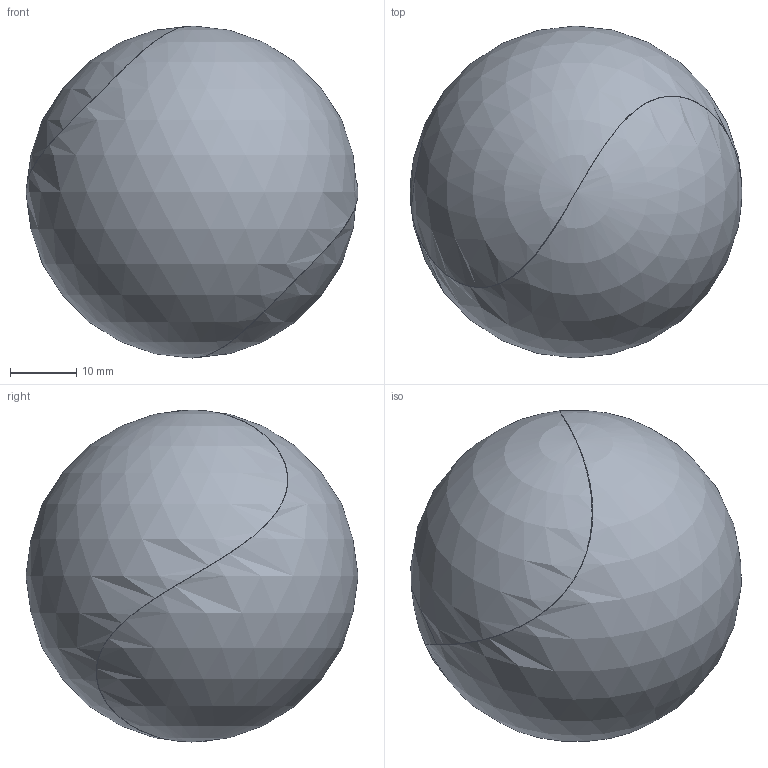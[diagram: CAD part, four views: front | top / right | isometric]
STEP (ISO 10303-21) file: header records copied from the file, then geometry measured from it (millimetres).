
FILE_DESCRIPTION((''),'2;1');
FILE_NAME('D:\113\Kugelteilung-rs-060818.stp','2006-08-19T03:21:06',('Roland'),(''),'Autodesk Inventor 10','Autodesk Inventor 10','');
FILE_SCHEMA(('AUTOMOTIVE_DESIGN { 1 0 10303 214 1 1 1 1 }'));
Length unit declared in the file: millimetre
Products named in the file (2): Kugelteilung-rs-060818
Assembly tree (2 placements, depth 2):
  Kugelteilung-rs-060818
    Kugelteilung-rs-060818  x2
Bounding box: 49.96 x 50 x 50 mm (x, y, z)
Volume: 65463.5 mm3; surface area: 12756.2 mm2
Topology: 2 solids, 2 shells, 4 faces, 14 edges, 8 vertices
Faces by surface type: bspline 2, sphere 2
Entity records: 794 total; most frequent: CARTESIAN_POINT 707, DIRECTION 10, ORIENTED_EDGE 6, AXIS2_PLACEMENT_3D 5, PRODUCT_DEFINITION_SHAPE 4, VERTEX_POINT 3, B_SPLINE_CURVE_WITH_KNOTS 3, EDGE_CURVE 3
